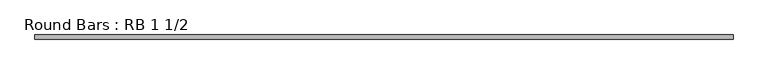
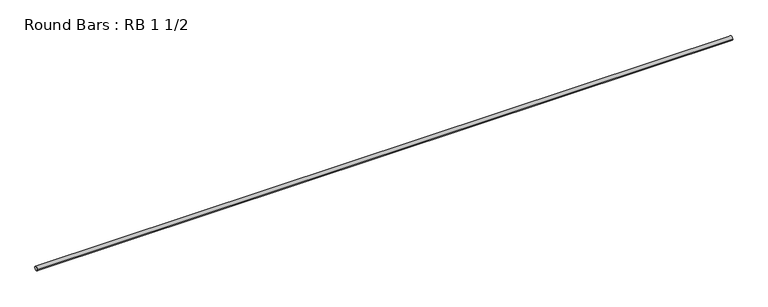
"""IFC4 building model written with IfcOpenShell, lengths in millimetres: member geometry, Round Bars : RB 1 1/2."""

from ifc_helpers import new_model, si_unit, point, frame, origin, origin_2d, place, context, project, spatial, circle_curve, trimmed, segment, composite_curve, outline, extrude, source, transform, mapped, element, save


def round_bars_rb_1_1_2_305f0f3b(model_context):
    return source(origin(), model_context, "Body", "SweptSolid", [
        extrude(outline(composite_curve([segment(trimmed(circle_curve(origin_2d(), 19.05), [point((19.05, 0.0))], [point((-19.05, 0.0))], False, "CARTESIAN"), True, "CONTINUOUS"), segment(trimmed(circle_curve(origin_2d(), 19.05), [point((-19.05, 0.0))], [point((19.05, 0.0))], False, "CARTESIAN"), True, "CONTINUOUS")], self_intersect=False)), frame((-3214.0749893, 0.0, 0.0), z_axis=(1.0, 0.0, 0.0), x_axis=(0.0, 1.0, 0.0)), (0.0, 0.0, 1.0), 6381.044968),
    ])


if __name__ == "__main__":
    model = new_model("IFC4")
    model_context = context("Model", 3, world=origin())
    ifc_project = project(units=[si_unit("LENGTHUNIT", "METRE", prefix="MILLI")], contexts=[model_context])
    site = spatial("IfcSite", under=ifc_project)
    building = spatial("IfcBuilding", under=site)
    placement = place(None, origin())
    round_bars_rb_1_1_2_shape = round_bars_rb_1_1_2_305f0f3b(model_context)
    element("IfcMember", 1, ObjectType="Round Bars : RB 1 1/2", at=placement, inside=building, context=model_context, shape_type="MappedRepresentation", body=[
        mapped(round_bars_rb_1_1_2_shape, transform((0.0, 0.0, 0.0), x_axis=(1.0, 0.0, 0.0), y_axis=(0.0, 1.0, 0.0), z_axis=(0.0, 0.0, 1.0))),
    ])
    save(model, "model.ifc")
